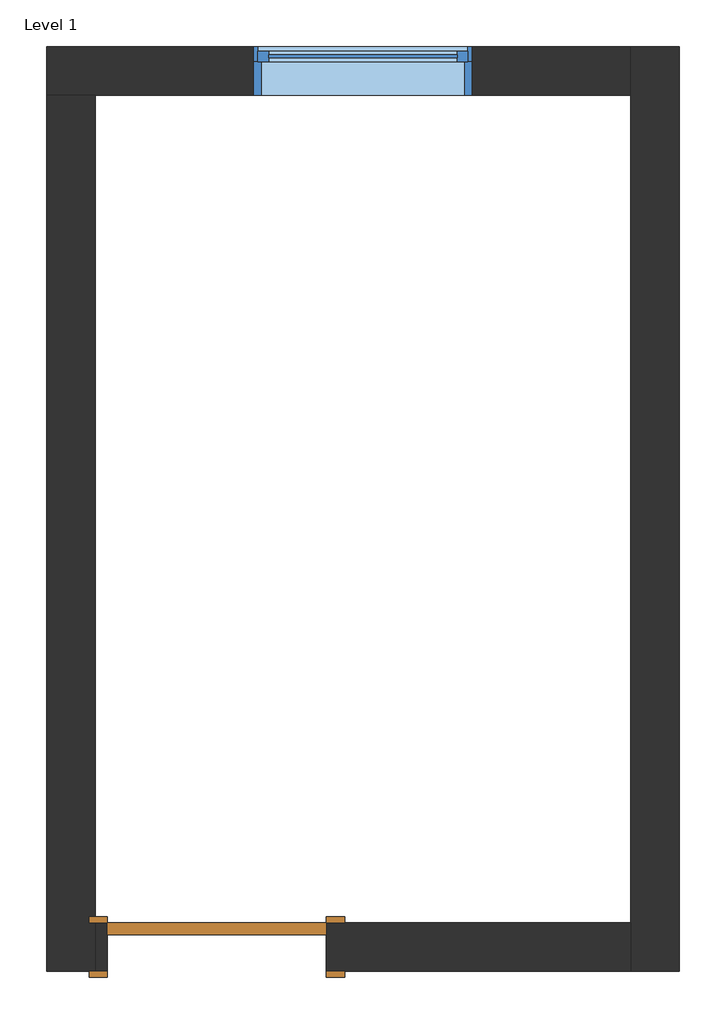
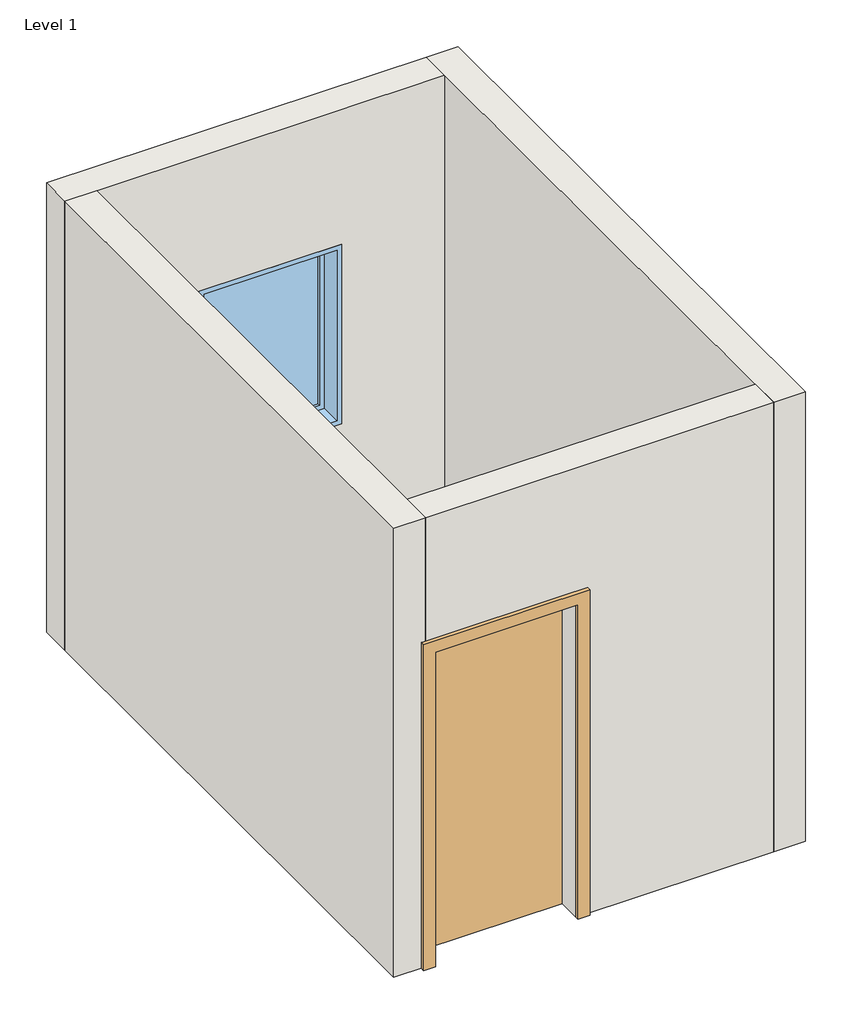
# One storey: 4 walls, 1 door, 1 window.
"""IFC4 building model written with IfcOpenShell, lengths in millimetres."""

import ifcopenshell
import ifcopenshell.guid

model = None  # the IFC model being written
_history = None  # IfcOwnerHistory: only IFC2X3 demands one
_inside = {}  # id of a spatial element -> (the spatial element, [elements in it])
_under = {}  # id of a project, library or spatial element -> (it, [spatial elements below it])
_declared = {}  # id of a project -> (the project, [libraries it declares])
_typed = {}  # id of a type object -> (the type object, [elements of that type])
_made_of = {}  # id of a material, layer set ... -> (it, [elements and type objects made of it])


def new_model(schema):
    """Start an empty IFC model of exactly this schema.

    Asked for "IFC4X3", IfcOpenShell would pick the latest addendum, in which some entities
    have other attributes; the version numbers below select the first issue.
    IFC2X3 requires an IfcOwnerHistory on every rooted entity: one is made here for all.
    """
    global model, _history
    if schema == "IFC4X3":
        model = ifcopenshell.file(schema_version=(4, 3, 0, 0))
    else:
        model = ifcopenshell.file(schema=schema)
    _inside.clear()
    _under.clear()
    _declared.clear()
    _typed.clear()
    _made_of.clear()
    _history = None
    if model.schema == "IFC2X3":
        org = make("IfcOrganization", Name="unknown")
        user = make(
            "IfcPersonAndOrganization",
            ThePerson=make("IfcPerson", FamilyName="unknown"),
            TheOrganization=org,
        )
        app = make(
            "IfcApplication",
            ApplicationDeveloper=org,
            Version="unknown",
            ApplicationFullName="unknown",
            ApplicationIdentifier="unknown",
        )
        _history = make(
            "IfcOwnerHistory",
            OwningUser=user,
            OwningApplication=app,
            ChangeAction="ADDED",
            CreationDate=0,
        )
    return model


def make(cls, **values):
    """One entity of the class cls with the attributes given. An attribute that is None is left unset."""
    return model.create_entity(
        cls, **{name: value for name, value in values.items() if value is not None}
    )


def rooted(cls, **values):
    """An entity with a GlobalId (a new one), such as an element, a storey or a relation."""
    return make(cls, GlobalId=ifcopenshell.guid.new(), OwnerHistory=_history, **values)


def si_unit(unit_type, name, prefix=None):
    """IfcSIUnit, for example si_unit("LENGTHUNIT", "METRE", prefix="MILLI")."""
    return make("IfcSIUnit", UnitType=unit_type, Prefix=prefix, Name=name)


def assignment(units):
    """IfcUnitAssignment: the units of a project."""
    return None if units is None else make("IfcUnitAssignment", Units=units)


def point(xyz):
    """IfcCartesianPoint."""
    return None if xyz is None else make("IfcCartesianPoint", Coordinates=xyz)


def direction(xyz):
    """IfcDirection."""
    return None if xyz is None else make("IfcDirection", DirectionRatios=xyz)


def frame(location, z_axis=None, x_axis=None):
    """IfcAxis2Placement3D, a coordinate frame: its origin and axes. An axis left out is left unset."""
    return make(
        "IfcAxis2Placement3D",
        Location=point(location),
        Axis=direction(z_axis),
        RefDirection=direction(x_axis),
    )


def origin():
    """The frame at (0, 0, 0) with its axes left unset."""
    return frame((0.0, 0.0, 0.0))


def origin_with_axes():
    """The frame at (0, 0, 0) with the z axis (0, 0, 1) and the x axis (1, 0, 0) written out."""
    return frame((0.0, 0.0, 0.0), z_axis=(0.0, 0.0, 1.0), x_axis=(1.0, 0.0, 0.0))


def place(relative_to, where):
    """IfcLocalPlacement: puts the frame where relative to a parent placement (None: the world)."""
    return make(
        "IfcLocalPlacement", PlacementRelTo=relative_to, RelativePlacement=where
    )


def context(
    kind, dimensions, precision=None, world=None, true_north=None, identifier=None
):
    """IfcGeometricRepresentationContext, for example the 3D "Model" context."""
    return make(
        "IfcGeometricRepresentationContext",
        ContextIdentifier=identifier,
        ContextType=kind,
        CoordinateSpaceDimension=dimensions,
        Precision=precision,
        WorldCoordinateSystem=world,
        TrueNorth=true_north,
    )


def project(units=None, contexts=None):
    """IfcProject with its units and contexts."""
    return rooted(
        "IfcProject",
        Name="project",
        RepresentationContexts=contexts,
        UnitsInContext=assignment(units),
    )


def spatial(cls, under=None, at=None, **own):
    """A site, building, storey or space (cls), placed at a placement, below another one or the project."""
    s = rooted(cls, ObjectPlacement=at, **own)
    if under is not None:
        _under.setdefault(under.id(), (under, []))[1].append(s)
    return s


def polyline(points):
    """IfcPolyline through the points."""
    return make("IfcPolyline", Points=[point(p) for p in points])


def outline(outer, holes=None, kind="AREA"):
    """IfcArbitraryClosedProfileDef: a profile drawn as a closed curve; with holes, ...WithVoids."""
    if holes is None:
        return make("IfcArbitraryClosedProfileDef", ProfileType=kind, OuterCurve=outer)
    return make(
        "IfcArbitraryProfileDefWithVoids",
        ProfileType=kind,
        OuterCurve=outer,
        InnerCurves=holes,
    )


def extrude(swept, where, along, depth):
    """IfcExtrudedAreaSolid: the profile swept, set in the frame where, extruded along a direction by depth."""
    return make(
        "IfcExtrudedAreaSolid",
        SweptArea=swept,
        Position=where,
        ExtrudedDirection=direction(along),
        Depth=depth,
    )


def faces_of(points, faces, orient=None, outer=None):
    """IfcFace entities. A face is a list of loops; a loop is a list of indices into points, from 0.

    orient and outer hold one flag for each loop. By default every Orientation is true, the
    first loop of a face is its IfcFaceOuterBound and the others are IfcFaceBound.
    """
    made = []
    for i, loops in enumerate(faces):
        bounds = []
        for j, loop in enumerate(loops):
            is_outer = j == 0 if outer is None else outer[i][j]
            bounds.append(
                make(
                    "IfcFaceOuterBound" if is_outer else "IfcFaceBound",
                    Bound=make("IfcPolyLoop", Polygon=[points[k] for k in loop]),
                    Orientation=True if orient is None else orient[i][j],
                )
            )
        made.append(make("IfcFace", Bounds=bounds))
    return made


def faceted_brep(points, faces, orient=None, outer=None, voids=None):
    """IfcFacetedBrep: a solid bounded by flat faces; with voids (closed shells), ...WithVoids."""
    shared = [point(p) for p in points]
    hull = make("IfcClosedShell", CfsFaces=faces_of(shared, faces, orient, outer))
    if voids is None:
        return make("IfcFacetedBrep", Outer=hull)
    return make(
        "IfcFacetedBrepWithVoids",
        Outer=hull,
        Voids=[
            make(cls, CfsFaces=faces_of(shared, fs, o, b)) for cls, fs, o, b in voids
        ],
    )


def shape(context_of_items, identifier, shape_type, items):
    """IfcShapeRepresentation: the items that make up one representation, for example the "Body"."""
    return make(
        "IfcShapeRepresentation",
        ContextOfItems=context_of_items,
        RepresentationIdentifier=identifier,
        RepresentationType=shape_type,
        Items=items,
    )


def source(mapping_origin, context_of_items, identifier, shape_type, items):
    """IfcRepresentationMap: a shape defined once, which mapped items show again and again."""
    return make(
        "IfcRepresentationMap",
        MappingOrigin=mapping_origin,
        MappedRepresentation=shape(context_of_items, identifier, shape_type, items),
    )


def transform(
    local_origin,
    x_axis=None,
    y_axis=None,
    z_axis=None,
    scale=None,
    scale2=None,
    scale3=None,
    uniform=True,
):
    """IfcCartesianTransformationOperator3D, or its non-uniform kind. x_axis, y_axis, z_axis: its Axis1, 2, 3."""
    if uniform:
        return make(
            "IfcCartesianTransformationOperator3D",
            Axis1=direction(x_axis),
            Axis2=direction(y_axis),
            LocalOrigin=point(local_origin),
            Scale=scale,
            Axis3=direction(z_axis),
        )
    return make(
        "IfcCartesianTransformationOperator3DnonUniform",
        Axis1=direction(x_axis),
        Axis2=direction(y_axis),
        LocalOrigin=point(local_origin),
        Scale=scale,
        Axis3=direction(z_axis),
        Scale2=scale2,
        Scale3=scale3,
    )


def mapped(mapping_source, mapping_target):
    """IfcMappedItem: shows the shape of a source again, moved by a transform."""
    return make(
        "IfcMappedItem", MappingSource=mapping_source, MappingTarget=mapping_target
    )


def made_of(thing, what):
    """Note that an element or type object is made of a material, layer set ...; save() writes the relation."""
    if what is not None:
        _made_of.setdefault(what.id(), (what, []))[1].append(thing)
    return thing


def element(
    cls,
    number,
    at=None,
    inside=None,
    cuts=None,
    type_object=None,
    material=None,
    context=None,
    identifier="Body",
    shape_type=None,
    held_by="IfcProductDefinitionShape",
    body=None,
    shapes=None,
    **own,
):
    """One element of the class cls, such as IfcWall. Its Tag is "e" and its number.

    at: its placement. inside: the storey or other place that contains it. cuts: it is an
    opening in that element (IfcRelVoidsElement). A single representation is given by context,
    identifier, shape_type and body (its items); several are given by shapes. held_by: the class
    of the entity that holds the representations. save() writes the other relations.
    """
    e = rooted(cls, Tag="e%d" % number, ObjectPlacement=at, **own)
    if body is not None:
        shapes = [shape(context, identifier, shape_type, body)]
    if shapes is not None:
        e.Representation = make(held_by, Representations=shapes)
    if inside is not None:
        _inside.setdefault(inside.id(), (inside, []))[1].append(e)
    if cuts is not None:
        rooted(
            "IfcRelVoidsElement", RelatingBuildingElement=cuts, RelatedOpeningElement=e
        )
    if type_object is not None:
        _typed.setdefault(type_object.id(), (type_object, []))[1].append(e)
    return made_of(e, material)


def aggregate(whole, parts):
    """IfcRelAggregates: a whole, such as a stair, and the parts it consists of."""
    return rooted("IfcRelAggregates", RelatingObject=whole, RelatedObjects=parts)


def save(model, path):
    """Write the relations noted so far, then the file.

    IfcRelAggregates (storeys below a building ...), IfcRelContainedInSpatialStructure (elements
    in a storey), IfcRelDefinesByType, IfcRelAssociatesMaterial and IfcRelDeclares: one each for
    every whole, place, type object, material and project.
    """
    for whole, parts in _under.values():
        aggregate(whole, parts)
    for where, things in _inside.values():
        rooted(
            "IfcRelContainedInSpatialStructure",
            RelatedElements=things,
            RelatingStructure=where,
        )
    for kind, things in _typed.values():
        rooted("IfcRelDefinesByType", RelatedObjects=things, RelatingType=kind)
    for what, things in _made_of.values():
        rooted("IfcRelAssociatesMaterial", RelatedObjects=things, RelatingMaterial=what)
    for by, libraries in _declared.values():
        rooted("IfcRelDeclares", RelatingContext=by, RelatedDefinitions=libraries)
    model.write(path)


def door_719f80de(model_context):
    return source(origin(), model_context, "Body", "SweptSolid", [
        extrude(outline(polyline([(2209.8, -533.4), (0.0, -533.4), (0.0, -457.2), (2133.6, -457.2), (2133.6, 457.2), (0.0, 457.2), (0.0, 533.4), (2209.8, 533.4), (2209.8, -533.4)])), frame((0.0, -127.0, 0.0), z_axis=(0.0, 1.0, 0.0), x_axis=(0.0, 0.0, 1.0)), (0.0, 0.0, 1.0), 25.4),
        extrude(outline(polyline([(2209.8, 533.4), (2209.8, -533.4), (0.0, -533.4), (0.0, -457.2), (2133.6, -457.2), (2133.6, 457.2), (0.0, 457.2), (0.0, 533.4), (2209.8, 533.4)])), frame((0.0, 101.6, 0.0), z_axis=(0.0, 1.0, 0.0), x_axis=(0.0, 0.0, 1.0)), (0.0, 0.0, 1.0), 25.4),
        extrude(outline(polyline([(457.2, -50.8), (457.2, -101.6), (-457.2, -101.6), (-457.2, -50.8), (457.2, -50.8)])), origin_with_axes(), (0.0, 0.0, 1.0), 2133.6),
    ])


def window_e2841890(model_context):
    return source(origin(), model_context, "Body", "SweptSolid", [
        extrude(outline(polyline([(355.6, 53.975), (-431.8, 53.975), (-431.8, 66.675), (355.6, 66.675), (355.6, 53.975)])), frame((0.0, 0.0, 977.9), z_axis=(0.0, 0.0, 1.0), x_axis=(1.0, 0.0, 0.0)), (0.0, 0.0, 1.0), 1092.2),
        extrude(outline(polyline([(2114.55, -476.25), (933.45, -476.25), (933.45, 400.05), (2114.55, 400.05), (2114.55, -476.25)]), holes=[polyline([(2070.1, -431.8), (2070.1, 355.6), (977.9, 355.6), (977.9, -431.8), (2070.1, -431.8)])]), frame((0.0, 38.1, 0.0), z_axis=(0.0, 1.0, 0.0), x_axis=(0.0, 0.0, 1.0)), (0.0, 0.0, 1.0), 44.45),
        extrude(outline(polyline([(2133.6, -495.3), (914.4, -495.3), (914.4, 419.1), (2133.6, 419.1), (2133.6, -495.3)]), holes=[polyline([(2101.85, -463.55), (2101.85, 387.35), (946.15, 387.35), (946.15, -463.55), (2101.85, -463.55)])]), frame((0.0, -101.6, 0.0), z_axis=(0.0, 1.0, 0.0), x_axis=(0.0, 0.0, 1.0)), (0.0, 0.0, 1.0), 139.7),
        extrude(outline(polyline([(2133.6, 419.1), (2133.6, -495.3), (914.4, -495.3), (914.4, 419.1), (2133.6, 419.1)]), holes=[polyline([(2114.55, 400.05), (933.45, 400.05), (933.45, -476.25), (2114.55, -476.25), (2114.55, 400.05)])]), frame((0.0, 38.1, 0.0), z_axis=(0.0, 1.0, 0.0), x_axis=(0.0, 0.0, 1.0)), (0.0, 0.0, 1.0), 63.5),
    ])


model = new_model("IFC4")

# Units and contexts
model_context = context("Model", 3, world=origin())
ifc_project = project(units=[si_unit("LENGTHUNIT", "METRE", prefix="MILLI")], contexts=[model_context])

# Site, building, storey
site = spatial("IfcSite", under=ifc_project)
building = spatial("IfcBuilding", under=site)
storey = spatial("IfcBuildingStorey", under=building, Name="Level 1", Elevation=0.0)

# Door
placement = place(None, origin())
door_shape = door_719f80de(model_context)
element("IfcDoor", 1, ObjectType="Single-Flush : 36\" x 84\"", at=placement, inside=storey, context=model_context, shape_type="MappedRepresentation", body=[
    mapped(door_shape, transform((-2555.0513488, 4196.5620945, 0.0), x_axis=(-0.9999999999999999, 0.0, 0.0), y_axis=(0.0, -0.9999999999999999, 0.0), z_axis=(0.0, 0.0, 1.0))),
])

# Walls
element("IfcWall", 2, ObjectType="Generic - 8\"", at=placement, inside=storey, context=model_context, shape_type="Brep", body=[
    faceted_brep([(-3266.2513488, 7752.5620945, 0.0), (-3063.0513488, 7752.5620945, 0.0), (-827.8513488, 7752.5620945, 0.0), (-827.8513488, 7752.5620945, 3048.0), (-3063.0513488, 7752.5620945, 3048.0), (-3266.2513488, 7752.5620945, 3048.0), (-1488.2513488, 7752.5620945, 2133.6), (-1488.2513488, 7752.5620945, 914.4), (-2402.6513488, 7752.5620945, 914.4), (-2402.6513488, 7752.5620945, 2133.6), (-3266.2513488, 7955.7620945, 0.0), (-3266.2513488, 7955.7620945, 3048.0), (-827.8513488, 7955.7620945, 3048.0), (-827.8513488, 7955.7620945, 0.0), (-1488.2513488, 7955.7620945, 2133.6), (-2402.6513488, 7955.7620945, 2133.6), (-2402.6513488, 7955.7620945, 914.4), (-1488.2513488, 7955.7620945, 914.4)], [[[0, 1, 2, 3, 4, 5], [6, 7, 8, 9]], [[10, 11, 12, 13], [14, 15, 16, 17]], [[2, 1, 0, 10, 13]], [[5, 4, 3, 12, 11]], [[0, 5, 11, 10]], [[3, 2, 13, 12]], [[7, 6, 14, 17]], [[8, 7, 17, 16]], [[9, 8, 16, 15]], [[6, 9, 15, 14]]]),
])
element("IfcWall", 3, ObjectType="Generic - 8\"", at=placement, inside=storey, context=model_context, shape_type="Brep", body=[
    faceted_brep([(-3063.0513488, 4094.9620945, 0.0), (-3063.0513488, 4298.1620945, 0.0), (-3063.0513488, 7752.5620945, 0.0), (-3063.0513488, 7752.5620945, 3048.0), (-3063.0513488, 4298.1620945, 3048.0), (-3063.0513488, 4094.9620945, 3048.0), (-3266.2513488, 4094.9620945, 0.0), (-3266.2513488, 4094.9620945, 3048.0), (-3266.2513488, 7752.5620945, 3048.0), (-3266.2513488, 7752.5620945, 0.0)], [[[0, 1, 2, 3, 4, 5]], [[6, 7, 8, 9]], [[2, 1, 0, 6, 9]], [[5, 4, 3, 8, 7]], [[0, 5, 7, 6]], [[3, 2, 9, 8]]]),
])
element("IfcWall", 4, ObjectType="Generic - 8\"", at=placement, inside=storey, context=model_context, shape_type="SweptSolid", body=[
    extrude(outline(polyline([(0.0, -3063.0513488), (0.0, -3012.2513488), (2133.6, -3012.2513488), (2133.6, -2097.8513488), (0.0, -2097.8513488), (0.0, -827.8513488), (3048.0, -827.8513488), (3048.0, -3063.0513488), (0.0, -3063.0513488)])), frame((0.0, 4094.9620945, 0.0), z_axis=(0.0, 1.0, 0.0), x_axis=(0.0, 0.0, 1.0)), (0.0, 0.0, 1.0), 203.2),
])
element("IfcWall", 5, ObjectType="Generic - 8\"", at=placement, inside=storey, context=model_context, shape_type="Brep", body=[
    faceted_brep([(-827.8513488, 7955.7620945, 0.0), (-827.8513488, 7752.5620945, 0.0), (-827.8513488, 4298.1620945, 0.0), (-827.8513488, 4094.9620945, 0.0), (-827.8513488, 4094.9620945, 3048.0), (-827.8513488, 4298.1620945, 3048.0), (-827.8513488, 7752.5620945, 3048.0), (-827.8513488, 7955.7620945, 3048.0), (-624.6513488, 7955.7620945, 0.0), (-624.6513488, 7955.7620945, 3048.0), (-624.6513488, 4094.9620945, 3048.0), (-624.6513488, 4094.9620945, 0.0)], [[[0, 1, 2, 3, 4, 5, 6, 7]], [[8, 9, 10, 11]], [[3, 2, 1, 0, 8, 11]], [[7, 6, 5, 4, 10, 9]], [[0, 7, 9, 8]], [[4, 3, 11, 10]]]),
])

# Window
window_shape = window_e2841890(model_context)
element("IfcWindow", 6, ObjectType="Fixed : 36\" x 48\"", at=placement, inside=storey, context=model_context, shape_type="MappedRepresentation", body=[
    mapped(window_shape, transform((-1907.3513488, 7854.1620945, 0.0), x_axis=(0.9999999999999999, 0.0, 0.0), y_axis=(0.0, 0.9999999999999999, 0.0), z_axis=(0.0, 0.0, 1.0))),
])

save(model, "model.ifc")
